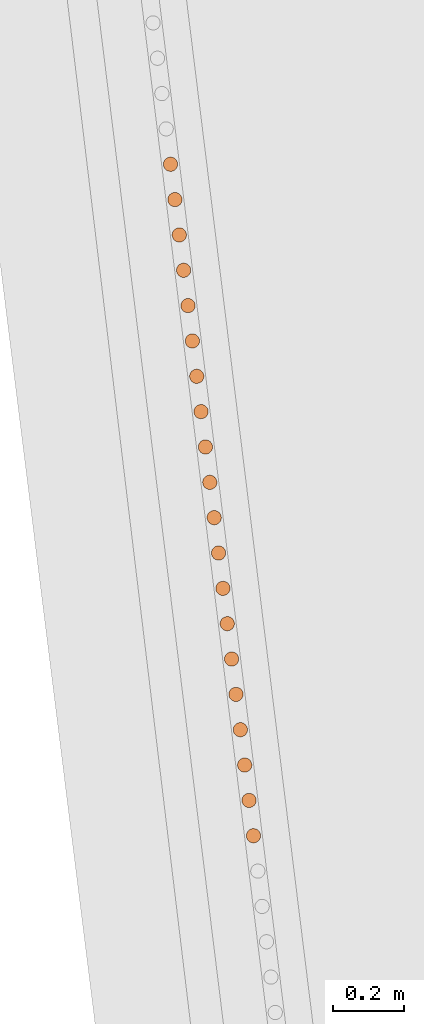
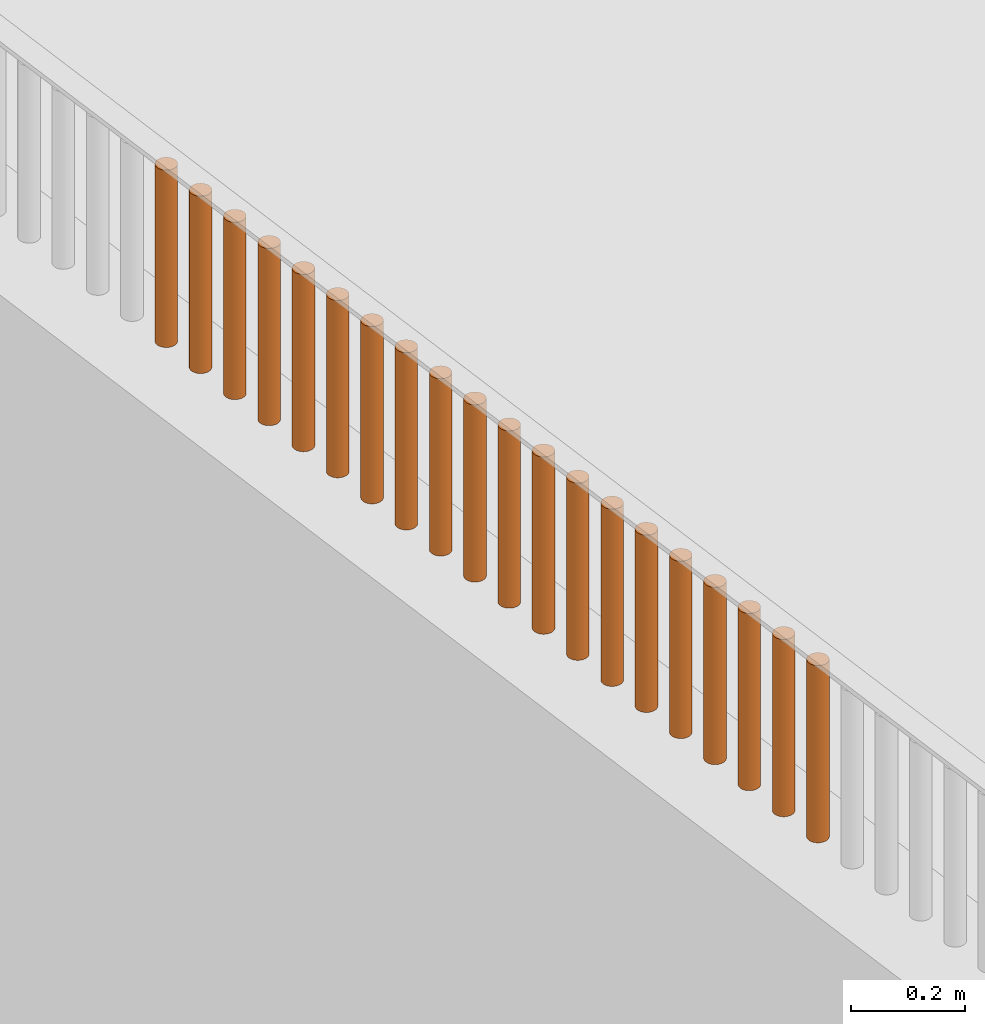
# One storey, part 234 of 1809: 20 proxies, 1 element without a shape of its own.
"""IFC2X3 building model written with IfcOpenShell, lengths in millimetres."""

from ifc_helpers import new_model, entity, si_unit, converted_unit, derived_unit, money_unit, direction, frame, origin_with_axes, place, context, subcontext, project, spatial, faceted_brep, source, transform, mapped, material, type_object, element, aggregate, save


model = new_model("IFC2X3")

# Units and contexts
model_context = context("Model", 3, precision=0.01, world=origin_with_axes(), true_north=direction((0.0, 1.0)))
body_context = subcontext(model_context, "Body", "Model", "MODEL_VIEW")
ifc_project = project(units=[si_unit("LENGTHUNIT", "METRE", prefix="MILLI"), si_unit("AREAUNIT", "SQUARE_METRE"), si_unit("VOLUMEUNIT", "CUBIC_METRE"), converted_unit("PLANEANGLEUNIT", "DEGREE", entity("IfcPlaneAngleMeasure", 0.0174532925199), si_unit("PLANEANGLEUNIT", "RADIAN"), dimensions=[0, 0, 0, 0, 0, 0, 0]), si_unit("SOLIDANGLEUNIT", "STERADIAN"), money_unit("EUR"), converted_unit("TIMEUNIT", "Year", entity("IfcTimeMeasure", 31556926.0), si_unit("TIMEUNIT", "SECOND"), dimensions=[0, 0, 1, 0, 0, 0, 0]), si_unit("MASSUNIT", "GRAM", prefix="KILO"), si_unit("THERMODYNAMICTEMPERATUREUNIT", "DEGREE_CELSIUS"), si_unit("LUMINOUSINTENSITYUNIT", "LUMEN"), si_unit("ENERGYUNIT", "JOULE", prefix="MEGA"), derived_unit("THERMALCONDUCTANCEUNIT", [(si_unit("POWERUNIT", "WATT"), 1), (si_unit("LENGTHUNIT", "METRE"), -1), (si_unit("THERMODYNAMICTEMPERATUREUNIT", "KELVIN"), -1)]), derived_unit("SPECIFICHEATCAPACITYUNIT", [(si_unit("ENERGYUNIT", "JOULE"), 1), (si_unit("MASSUNIT", "GRAM", prefix="KILO"), -1), (si_unit("THERMODYNAMICTEMPERATUREUNIT", "KELVIN"), -1)]), derived_unit("MASSDENSITYUNIT", [(si_unit("MASSUNIT", "GRAM", prefix="KILO"), 1), (si_unit("VOLUMEUNIT", "CUBIC_METRE"), -1)])], contexts=[model_context])

# Site, building, storey
site_placement = place(None, origin_with_axes())
site = spatial("IfcSite", under=ifc_project, at=site_placement, Name="Politse- ja Piirivalveameti ning Päästeameti ühishoone", CompositionType="ELEMENT")
building_placement = place(site_placement, origin_with_axes())
building = spatial("IfcBuilding", under=site, at=building_placement, Name="Politse- ja Piirivalveameti ning Päästeameti ühishoone", CompositionType="ELEMENT")
storey_placement = place(building_placement, origin_with_axes())
storey = spatial("IfcBuildingStorey", under=building, at=storey_placement, Name="Esimene korrus", CompositionType="ELEMENT", Elevation=0.0)

# Proxies
building_element_proxy_type_1 = type_object("IfcBuildingElementProxyType", Name="Railing Type", PredefinedType="NOTDEFINED")
proxy_1_placement = place(storey_placement, frame((-18956.5522504, -53688.4757966, 2100.0), z_axis=(0.0, 0.0, 1.0), x_axis=(1.0, 0.0, 0.0)))
proxy_1 = element("IfcBuildingElementProxy", 1, at=proxy_1_placement, inside=storey, type_object=building_element_proxy_type_1, Name="PIIRDEAED")
ifc_material = material(Name="ET-06_Teras - Konstruktsioon")
building_element_proxy_type_2 = type_object("IfcBuildingElementProxyType", Name="IfcBuildingElementProxy", PredefinedType="NOTDEFINED")
shared_shape_1 = source(origin_with_axes(), body_context, "Body", "Brep", [
    faceted_brep([(0.0, -20.0, 0.0), (3.47296355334, -19.6961550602, 0.0), (3.47296355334, -19.6961550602, 380.000012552), (0.0, -20.0, 380.000012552), (-3.47296355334, -19.6961550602, 0.0), (-6.84040286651, -18.7938524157, 0.0), (-10.0, -17.3205080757, 0.0), (-12.8557521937, -15.3208888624, 0.0), (-15.3208888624, -12.8557521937, 0.0), (-17.3205080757, -10.0, 0.0), (-18.7938524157, -6.84040286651, 0.0), (-19.6961550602, -3.47296355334, 0.0), (-20.0, 0.0, 0.0), (-19.6961550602, 3.47296355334, 0.0), (-18.7938524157, 6.84040286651, 0.0), (-17.3205080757, 10.0, 0.0), (-15.3208888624, 12.8557521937, 0.0), (-12.8557521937, 15.3208888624, 0.0), (-10.0, 17.3205080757, 0.0), (-6.84040286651, 18.7938524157, 0.0), (-3.47296355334, 19.6961550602, 0.0), (0.0, 20.0, 0.0), (3.47296355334, 19.6961550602, 0.0), (6.84040286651, 18.7938524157, 0.0), (10.0, 17.3205080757, 0.0), (12.8557521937, 15.3208888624, 0.0), (15.3208888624, 12.8557521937, 0.0), (17.3205080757, 10.0, 0.0), (18.7938524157, 6.84040286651, 0.0), (19.6961550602, 3.47296355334, 0.0), (20.0, 0.0, 0.0), (19.6961550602, -3.47296355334, 0.0), (18.7938524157, -6.84040286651, 0.0), (17.3205080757, -10.0, 0.0), (15.3208888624, -12.8557521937, 0.0), (12.8557521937, -15.3208888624, 0.0), (10.0, -17.3205080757, 0.0), (6.84040286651, -18.7938524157, 0.0), (6.84040286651, -18.7938524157, 380.000012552), (10.0, -17.3205080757, 380.000012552), (12.8557521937, -15.3208888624, 380.000012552), (15.3208888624, -12.8557521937, 380.000012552), (17.3205080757, -10.0, 380.000012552), (18.7938524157, -6.84040286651, 380.000012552), (19.6961550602, -3.47296355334, 380.000012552), (20.0, 0.0, 380.000012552), (19.6961550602, 3.47296355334, 380.000012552), (18.7938524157, 6.84040286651, 380.000012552), (17.3205080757, 10.0, 380.000012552), (15.3208888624, 12.8557521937, 380.000012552), (12.8557521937, 15.3208888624, 380.000012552), (10.0, 17.3205080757, 380.000012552), (6.84040286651, 18.7938524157, 380.000012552), (3.47296355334, 19.6961550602, 380.000012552), (0.0, 20.0, 380.000012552), (-3.47296355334, 19.6961550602, 380.000012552), (-6.84040286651, 18.7938524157, 380.000012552), (-10.0, 17.3205080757, 380.000012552), (-12.8557521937, 15.3208888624, 380.000012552), (-15.3208888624, 12.8557521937, 380.000012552), (-17.3205080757, 10.0, 380.000012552), (-18.7938524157, 6.84040286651, 380.000012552), (-19.6961550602, 3.47296355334, 380.000012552), (-20.0, 0.0, 380.000012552), (-19.6961550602, -3.47296355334, 380.000012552), (-18.7938524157, -6.84040286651, 380.000012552), (-17.3205080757, -10.0, 380.000012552), (-15.3208888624, -12.8557521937, 380.000012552), (-12.8557521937, -15.3208888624, 380.000012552), (-10.0, -17.3205080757, 380.000012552), (-6.84040286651, -18.7938524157, 380.000012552), (-3.47296355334, -19.6961550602, 380.000012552)], [[[0, 1, 2, 3]], [[0, 4, 5, 6, 7, 8, 9, 10, 11, 12, 13, 14, 15, 16, 17, 18, 19, 20, 21, 22, 23, 24, 25, 26, 27, 28, 29, 30, 31, 32, 33, 34, 35, 36, 37, 1]], [[1, 37, 38, 2]], [[3, 2, 38, 39, 40, 41, 42, 43, 44, 45, 46, 47, 48, 49, 50, 51, 52, 53, 54, 55, 56, 57, 58, 59, 60, 61, 62, 63, 64, 65, 66, 67, 68, 69, 70, 71]], [[4, 0, 3, 71]], [[5, 4, 71, 70]], [[6, 5, 70, 69]], [[7, 6, 69, 68]], [[8, 7, 68, 67]], [[9, 8, 67, 66]], [[10, 9, 66, 65]], [[11, 10, 65, 64]], [[12, 11, 64, 63]], [[13, 12, 63, 62]], [[14, 13, 62, 61]], [[15, 14, 61, 60]], [[16, 15, 60, 59]], [[17, 16, 59, 58]], [[18, 17, 58, 57]], [[19, 18, 57, 56]], [[20, 19, 56, 55]], [[21, 20, 55, 54]], [[22, 21, 54, 53]], [[23, 22, 53, 52]], [[24, 23, 52, 51]], [[25, 24, 51, 50]], [[26, 25, 50, 49]], [[27, 26, 49, 48]], [[28, 27, 48, 47]], [[29, 28, 47, 46]], [[30, 29, 46, 45]], [[31, 30, 45, 44]], [[32, 31, 44, 43]], [[33, 32, 43, 42]], [[34, 33, 42, 41]], [[35, 34, 41, 40]], [[36, 35, 40, 39]], [[37, 36, 39, 38]]]),
])
proxy_2_placement = place(proxy_1_placement, frame((-7747.83841342, 61935.297786, -1.25517001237e-05), z_axis=(0.0, 0.0, 1.0), x_axis=(1.0, 0.0, 0.0)))
proxy_2 = element("IfcBuildingElementProxy", 2, at=proxy_2_placement, type_object=building_element_proxy_type_2, material=ifc_material, Name="BALUSTER - 001", context=body_context, shape_type="MappedRepresentation", body=[
    mapped(shared_shape_1, transform((0.0, 0.0, 0.0), x_axis=(0.992468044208, 0.122503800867, 0.0), y_axis=(-0.122503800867, 0.992468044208, 0.0), z_axis=(0.0, 0.0, 1.0))),
])
proxy_3_placement = place(proxy_1_placement, frame((-7760.08611833, 62034.5229174, -1.25517001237e-05), z_axis=(0.0, 0.0, 1.0), x_axis=(1.0, 0.0, 0.0)))
proxy_3 = element("IfcBuildingElementProxy", 3, at=proxy_3_placement, type_object=building_element_proxy_type_2, material=ifc_material, Name="BALUSTER - 001", context=body_context, shape_type="MappedRepresentation", body=[
    mapped(shared_shape_1, transform((0.0, 0.0, 0.0), x_axis=(0.992468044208, 0.122503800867, 0.0), y_axis=(-0.122503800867, 0.992468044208, 0.0), z_axis=(0.0, 0.0, 1.0))),
])
proxy_4_placement = place(proxy_1_placement, frame((-7784.58152816, 62232.9731803, -1.25517001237e-05), z_axis=(0.0, 0.0, 1.0), x_axis=(1.0, 0.0, 0.0)))
proxy_4 = element("IfcBuildingElementProxy", 4, at=proxy_4_placement, type_object=building_element_proxy_type_2, material=ifc_material, Name="BALUSTER - 001", context=body_context, shape_type="MappedRepresentation", body=[
    mapped(shared_shape_1, transform((0.0, 0.0, 0.0), x_axis=(0.992468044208, 0.122503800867, 0.0), y_axis=(-0.122503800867, 0.992468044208, 0.0), z_axis=(0.0, 0.0, 1.0))),
])
proxy_5_placement = place(proxy_1_placement, frame((-7845.82005272, 62729.0988374, -1.25517001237e-05), z_axis=(0.0, 0.0, 1.0), x_axis=(1.0, 0.0, 0.0)))
proxy_5 = element("IfcBuildingElementProxy", 5, at=proxy_5_placement, type_object=building_element_proxy_type_2, material=ifc_material, Name="BALUSTER - 001", context=body_context, shape_type="MappedRepresentation", body=[
    mapped(shared_shape_1, transform((0.0, 0.0, 0.0), x_axis=(0.992468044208, 0.122503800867, 0.0), y_axis=(-0.122503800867, 0.992468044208, 0.0), z_axis=(0.0, 0.0, 1.0))),
])
proxy_6_placement = place(proxy_1_placement, frame((-7870.31546255, 62927.5491002, -1.25517001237e-05), z_axis=(0.0, 0.0, 1.0), x_axis=(1.0, 0.0, 0.0)))
proxy_6 = element("IfcBuildingElementProxy", 6, at=proxy_6_placement, type_object=building_element_proxy_type_2, material=ifc_material, Name="BALUSTER - 001", context=body_context, shape_type="MappedRepresentation", body=[
    mapped(shared_shape_1, transform((0.0, 0.0, 0.0), x_axis=(0.992468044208, 0.122503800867, 0.0), y_axis=(-0.122503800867, 0.992468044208, 0.0), z_axis=(0.0, 0.0, 1.0))),
])
proxy_7_placement = place(proxy_1_placement, frame((-7894.81087237, 63125.9993631, -1.25517001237e-05), z_axis=(0.0, 0.0, 1.0), x_axis=(1.0, 0.0, 0.0)))
proxy_7 = element("IfcBuildingElementProxy", 7, at=proxy_7_placement, type_object=building_element_proxy_type_2, material=ifc_material, Name="BALUSTER - 001", context=body_context, shape_type="MappedRepresentation", body=[
    mapped(shared_shape_1, transform((0.0, 0.0, 0.0), x_axis=(0.992468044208, 0.122503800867, 0.0), y_axis=(-0.122503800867, 0.992468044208, 0.0), z_axis=(0.0, 0.0, 1.0))),
])
proxy_8_placement = place(proxy_1_placement, frame((-7907.05857729, 63225.2244945, -1.25517001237e-05), z_axis=(0.0, 0.0, 1.0), x_axis=(1.0, 0.0, 0.0)))
proxy_8 = element("IfcBuildingElementProxy", 8, at=proxy_8_placement, type_object=building_element_proxy_type_2, material=ifc_material, Name="BALUSTER - 001", context=body_context, shape_type="MappedRepresentation", body=[
    mapped(shared_shape_1, transform((0.0, 0.0, 0.0), x_axis=(0.992468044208, 0.122503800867, 0.0), y_axis=(-0.122503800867, 0.992468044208, 0.0), z_axis=(0.0, 0.0, 1.0))),
])
proxy_9_placement = place(proxy_1_placement, frame((-7919.3062822, 63324.4496259, -1.25517001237e-05), z_axis=(0.0, 0.0, 1.0), x_axis=(1.0, 0.0, 0.0)))
proxy_9 = element("IfcBuildingElementProxy", 9, at=proxy_9_placement, type_object=building_element_proxy_type_2, material=ifc_material, Name="BALUSTER - 001", context=body_context, shape_type="MappedRepresentation", body=[
    mapped(shared_shape_1, transform((0.0, 0.0, 0.0), x_axis=(0.992468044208, 0.122503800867, 0.0), y_axis=(-0.122503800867, 0.992468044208, 0.0), z_axis=(0.0, 0.0, 1.0))),
])
proxy_10_placement = place(proxy_1_placement, frame((-7943.80169203, 63522.8998888, -1.25517001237e-05), z_axis=(0.0, 0.0, 1.0), x_axis=(1.0, 0.0, 0.0)))
proxy_10 = element("IfcBuildingElementProxy", 10, at=proxy_10_placement, type_object=building_element_proxy_type_2, material=ifc_material, Name="BALUSTER - 001", context=body_context, shape_type="MappedRepresentation", body=[
    mapped(shared_shape_1, transform((0.0, 0.0, 0.0), x_axis=(0.992468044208, 0.122503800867, 0.0), y_axis=(-0.122503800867, 0.992468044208, 0.0), z_axis=(0.0, 0.0, 1.0))),
])
proxy_11_placement = place(proxy_1_placement, frame((-7968.29710185, 63721.3501516, -1.25517001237e-05), z_axis=(0.0, 0.0, 1.0), x_axis=(1.0, 0.0, 0.0)))
proxy_11 = element("IfcBuildingElementProxy", 11, at=proxy_11_placement, type_object=building_element_proxy_type_2, material=ifc_material, Name="BALUSTER - 001", context=body_context, shape_type="MappedRepresentation", body=[
    mapped(shared_shape_1, transform((0.0, 0.0, 0.0), x_axis=(0.992468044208, 0.122503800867, 0.0), y_axis=(-0.122503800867, 0.992468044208, 0.0), z_axis=(0.0, 0.0, 1.0))),
])
proxy_12_placement = place(proxy_1_placement, frame((-7980.54480677, 63820.5752831, -1.25517001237e-05), z_axis=(0.0, 0.0, 1.0), x_axis=(1.0, 0.0, 0.0)))
proxy_12 = element("IfcBuildingElementProxy", 12, at=proxy_12_placement, type_object=building_element_proxy_type_2, material=ifc_material, Name="BALUSTER - 001", context=body_context, shape_type="MappedRepresentation", body=[
    mapped(shared_shape_1, transform((0.0, 0.0, 0.0), x_axis=(0.992468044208, 0.122503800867, 0.0), y_axis=(-0.122503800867, 0.992468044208, 0.0), z_axis=(0.0, 0.0, 1.0))),
])
shared_shape_2 = source(origin_with_axes(), body_context, "Body", "Brep", [
    faceted_brep([(0.0, -20.0, 0.0), (3.47296355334, -19.6961550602, 0.0), (3.47296355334, -19.6961550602, 380.000012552), (0.0, -20.0, 380.000012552), (-3.47296355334, -19.6961550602, 0.0), (-6.84040286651, -18.7938524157, 0.0), (-10.0, -17.3205080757, 0.0), (-12.8557521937, -15.3208888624, 0.0), (-15.3208888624, -12.8557521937, 0.0), (-17.3205080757, -10.0, 0.0), (-18.7938524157, -6.84040286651, 0.0), (-19.6961550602, -3.47296355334, 0.0), (-20.0, 0.0, 0.0), (-19.6961550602, 3.47296355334, 0.0), (-18.7938524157, 6.84040286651, 0.0), (-17.3205080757, 10.0, 0.0), (-15.3208888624, 12.8557521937, 0.0), (-12.8557521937, 15.3208888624, 0.0), (-10.0, 17.3205080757, 0.0), (-6.84040286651, 18.7938524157, 0.0), (-3.47296355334, 19.6961550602, 0.0), (0.0, 20.0, 0.0), (3.47296355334, 19.6961550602, 0.0), (6.84040286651, 18.7938524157, 0.0), (10.0, 17.3205080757, 0.0), (12.8557521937, 15.3208888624, 0.0), (15.3208888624, 12.8557521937, 0.0), (17.3205080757, 10.0, 0.0), (18.7938524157, 6.84040286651, 0.0), (19.6961550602, 3.47296355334, 0.0), (20.0, 0.0, 0.0), (19.6961550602, -3.47296355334, 0.0), (18.7938524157, -6.84040286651, 0.0), (17.3205080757, -10.0, 0.0), (15.3208888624, -12.8557521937, 0.0), (12.8557521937, -15.3208888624, 0.0), (10.0, -17.3205080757, 0.0), (6.84040286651, -18.7938524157, 0.0), (6.84040286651, -18.7938524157, 380.000012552), (10.0, -17.3205080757, 380.000012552), (12.8557521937, -15.3208888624, 380.000012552), (15.3208888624, -12.8557521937, 380.000012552), (17.3205080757, -10.0, 380.000012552), (18.7938524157, -6.84040286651, 380.000012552), (19.6961550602, -3.47296355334, 380.000012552), (20.0, 0.0, 380.000012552), (19.6961550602, 3.47296355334, 380.000012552), (18.7938524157, 6.84040286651, 380.000012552), (17.3205080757, 10.0, 380.000012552), (15.3208888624, 12.8557521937, 380.000012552), (12.8557521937, 15.3208888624, 380.000012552), (10.0, 17.3205080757, 380.000012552), (6.84040286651, 18.7938524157, 380.000012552), (3.47296355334, 19.6961550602, 380.000012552), (0.0, 20.0, 380.000012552), (-3.47296355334, 19.6961550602, 380.000012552), (-6.84040286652, 18.7938524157, 380.000012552), (-10.0, 17.3205080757, 380.000012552), (-12.8557521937, 15.3208888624, 380.000012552), (-15.3208888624, 12.8557521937, 380.000012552), (-17.3205080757, 10.0, 380.000012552), (-18.7938524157, 6.84040286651, 380.000012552), (-19.6961550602, 3.47296355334, 380.000012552), (-20.0, 0.0, 380.000012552), (-19.6961550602, -3.47296355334, 380.000012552), (-18.7938524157, -6.84040286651, 380.000012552), (-17.3205080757, -10.0, 380.000012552), (-15.3208888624, -12.8557521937, 380.000012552), (-12.8557521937, -15.3208888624, 380.000012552), (-10.0, -17.3205080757, 380.000012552), (-6.84040286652, -18.7938524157, 380.000012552), (-3.47296355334, -19.6961550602, 380.000012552)], [[[0, 1, 2, 3]], [[0, 4, 5, 6, 7, 8, 9, 10, 11, 12, 13, 14, 15, 16, 17, 18, 19, 20, 21, 22, 23, 24, 25, 26, 27, 28, 29, 30, 31, 32, 33, 34, 35, 36, 37, 1]], [[1, 37, 38, 2]], [[3, 2, 38, 39, 40, 41, 42, 43, 44, 45, 46, 47, 48, 49, 50, 51, 52, 53, 54, 55, 56, 57, 58, 59, 60, 61, 62, 63, 64, 65, 66, 67, 68, 69, 70, 71]], [[4, 0, 3, 71]], [[5, 4, 71, 70]], [[6, 5, 70, 69]], [[7, 6, 69, 68]], [[8, 7, 68, 67]], [[9, 8, 67, 66]], [[10, 9, 66, 65]], [[11, 10, 65, 64]], [[12, 11, 64, 63]], [[13, 12, 63, 62]], [[14, 13, 62, 61]], [[15, 14, 61, 60]], [[16, 15, 60, 59]], [[17, 16, 59, 58]], [[18, 17, 58, 57]], [[19, 18, 57, 56]], [[20, 19, 56, 55]], [[21, 20, 55, 54]], [[22, 21, 54, 53]], [[23, 22, 53, 52]], [[24, 23, 52, 51]], [[25, 24, 51, 50]], [[26, 25, 50, 49]], [[27, 26, 49, 48]], [[28, 27, 48, 47]], [[29, 28, 47, 46]], [[30, 29, 46, 45]], [[31, 30, 45, 44]], [[32, 31, 44, 43]], [[33, 32, 43, 42]], [[34, 33, 42, 41]], [[35, 34, 41, 40]], [[36, 35, 40, 39]], [[37, 36, 39, 38]]]),
])
proxy_13_placement = place(proxy_1_placement, frame((-7772.33382324, 62133.7480488, -1.25517001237e-05), z_axis=(0.0, 0.0, 1.0), x_axis=(1.0, 0.0, 0.0)))
proxy_13 = element("IfcBuildingElementProxy", 13, at=proxy_13_placement, type_object=building_element_proxy_type_2, material=ifc_material, Name="BALUSTER - 001", context=body_context, shape_type="MappedRepresentation", body=[
    mapped(shared_shape_2, transform((0.0, 0.0, 0.0), x_axis=(0.992468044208, 0.122503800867, 0.0), y_axis=(-0.122503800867, 0.992468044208, 0.0), z_axis=(0.0, 0.0, 1.0))),
])
proxy_14_placement = place(proxy_1_placement, frame((-7833.57234781, 62629.873706, -1.25517001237e-05), z_axis=(0.0, 0.0, 1.0), x_axis=(1.0, 0.0, 0.0)))
proxy_14 = element("IfcBuildingElementProxy", 14, at=proxy_14_placement, type_object=building_element_proxy_type_2, material=ifc_material, Name="BALUSTER - 001", context=body_context, shape_type="MappedRepresentation", body=[
    mapped(shared_shape_2, transform((0.0, 0.0, 0.0), x_axis=(0.992468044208, 0.122503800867, 0.0), y_axis=(-0.122503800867, 0.992468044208, 0.0), z_axis=(0.0, 0.0, 1.0))),
])
proxy_15_placement = place(proxy_1_placement, frame((-7858.06775763, 62828.3239688, -1.25517001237e-05), z_axis=(0.0, 0.0, 1.0), x_axis=(1.0, 0.0, 0.0)))
proxy_15 = element("IfcBuildingElementProxy", 15, at=proxy_15_placement, type_object=building_element_proxy_type_2, material=ifc_material, Name="BALUSTER - 001", context=body_context, shape_type="MappedRepresentation", body=[
    mapped(shared_shape_2, transform((0.0, 0.0, 0.0), x_axis=(0.992468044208, 0.122503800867, 0.0), y_axis=(-0.122503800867, 0.992468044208, 0.0), z_axis=(0.0, 0.0, 1.0))),
])
proxy_16_placement = place(proxy_1_placement, frame((-7882.56316746, 63026.7742317, -1.25517001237e-05), z_axis=(0.0, 0.0, 1.0), x_axis=(1.0, 0.0, 0.0)))
proxy_16 = element("IfcBuildingElementProxy", 16, at=proxy_16_placement, type_object=building_element_proxy_type_2, material=ifc_material, Name="BALUSTER - 001", context=body_context, shape_type="MappedRepresentation", body=[
    mapped(shared_shape_2, transform((0.0, 0.0, 0.0), x_axis=(0.992468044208, 0.122503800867, 0.0), y_axis=(-0.122503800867, 0.992468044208, 0.0), z_axis=(0.0, 0.0, 1.0))),
])
shared_shape_3 = source(origin_with_axes(), body_context, "Body", "Brep", [
    faceted_brep([(0.0, -20.0, 0.0), (3.47296355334, -19.6961550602, 0.0), (3.47296355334, -19.6961550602, 380.000012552), (0.0, -20.0, 380.000012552), (-3.47296355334, -19.6961550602, 0.0), (-6.84040286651, -18.7938524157, 0.0), (-10.0, -17.3205080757, 0.0), (-12.8557521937, -15.3208888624, 0.0), (-15.3208888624, -12.8557521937, 0.0), (-17.3205080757, -10.0, 0.0), (-18.7938524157, -6.84040286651, 0.0), (-19.6961550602, -3.47296355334, 0.0), (-20.0, 0.0, 0.0), (-19.6961550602, 3.47296355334, 0.0), (-18.7938524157, 6.84040286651, 0.0), (-17.3205080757, 10.0, 0.0), (-15.3208888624, 12.8557521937, 0.0), (-12.8557521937, 15.3208888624, 0.0), (-10.0, 17.3205080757, 0.0), (-6.84040286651, 18.7938524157, 0.0), (-3.47296355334, 19.6961550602, 0.0), (0.0, 20.0, 0.0), (3.47296355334, 19.6961550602, 0.0), (6.84040286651, 18.7938524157, 0.0), (10.0, 17.3205080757, 0.0), (12.8557521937, 15.3208888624, 0.0), (15.3208888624, 12.8557521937, 0.0), (17.3205080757, 10.0, 0.0), (18.7938524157, 6.84040286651, 0.0), (19.6961550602, 3.47296355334, 0.0), (20.0, 0.0, 0.0), (19.6961550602, -3.47296355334, 0.0), (18.7938524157, -6.84040286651, 0.0), (17.3205080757, -10.0, 0.0), (15.3208888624, -12.8557521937, 0.0), (12.8557521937, -15.3208888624, 0.0), (10.0, -17.3205080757, 0.0), (6.84040286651, -18.7938524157, 0.0), (6.84040286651, -18.7938524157, 380.000012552), (10.0, -17.3205080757, 380.000012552), (12.8557521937, -15.3208888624, 380.000012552), (15.3208888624, -12.8557521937, 380.000012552), (17.3205080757, -10.0, 380.000012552), (18.7938524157, -6.84040286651, 380.000012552), (19.6961550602, -3.47296355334, 380.000012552), (20.0, 0.0, 380.000012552), (19.6961550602, 3.47296355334, 380.000012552), (18.7938524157, 6.84040286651, 380.000012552), (17.3205080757, 10.0, 380.000012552), (15.3208888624, 12.8557521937, 380.000012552), (12.8557521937, 15.3208888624, 380.000012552), (10.0, 17.3205080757, 380.000012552), (6.84040286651, 18.7938524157, 380.000012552), (3.47296355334, 19.6961550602, 380.000012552), (0.0, 20.0, 380.000012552), (-3.47296355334, 19.6961550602, 380.000012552), (-6.84040286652, 18.7938524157, 380.000012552), (-10.0, 17.3205080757, 380.000012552), (-12.8557521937, 15.3208888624, 380.000012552), (-15.3208888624, 12.8557521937, 380.000012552), (-17.3205080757, 10.0, 380.000012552), (-18.7938524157, 6.84040286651, 380.000012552), (-19.6961550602, 3.47296355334, 380.000012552), (-20.0, 0.0, 380.000012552), (-19.6961550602, -3.47296355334, 380.000012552), (-18.7938524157, -6.84040286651, 380.000012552), (-17.3205080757, -10.0, 380.000012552), (-15.3208888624, -12.8557521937, 380.000012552), (-12.8557521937, -15.3208888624, 380.000012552), (-10.0, -17.3205080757, 380.000012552), (-6.84040286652, -18.7938524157, 380.000012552), (-3.47296355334, -19.6961550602, 380.000012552)], [[[0, 1, 2, 3]], [[0, 4, 5, 6, 7, 8, 9, 10, 11, 12, 13, 14, 15, 16, 17, 18, 19, 20, 21, 22, 23, 24, 25, 26, 27, 28, 29, 30, 31, 32, 33, 34, 35, 36, 37, 1]], [[1, 37, 38, 2]], [[3, 2, 38, 39, 40, 41, 42, 43, 44, 45, 46, 47, 48, 49, 50, 51, 52, 53, 54, 55, 56, 57, 58, 59, 60, 61, 62, 63, 64, 65, 66, 67, 68, 69, 70, 71]], [[4, 0, 3, 71]], [[5, 4, 71, 70]], [[6, 5, 70, 69]], [[7, 6, 69, 68]], [[8, 7, 68, 67]], [[9, 8, 67, 66]], [[10, 9, 66, 65]], [[11, 10, 65, 64]], [[12, 11, 64, 63]], [[13, 12, 63, 62]], [[14, 13, 62, 61]], [[15, 14, 61, 60]], [[16, 15, 60, 59]], [[17, 16, 59, 58]], [[18, 17, 58, 57]], [[19, 18, 57, 56]], [[20, 19, 56, 55]], [[21, 20, 55, 54]], [[22, 21, 54, 53]], [[23, 22, 53, 52]], [[24, 23, 52, 51]], [[25, 24, 51, 50]], [[26, 25, 50, 49]], [[27, 26, 49, 48]], [[28, 27, 48, 47]], [[29, 28, 47, 46]], [[30, 29, 46, 45]], [[31, 30, 45, 44]], [[32, 31, 44, 43]], [[33, 32, 43, 42]], [[34, 33, 42, 41]], [[35, 34, 41, 40]], [[36, 35, 40, 39]], [[37, 36, 39, 38]]]),
])
proxy_17_placement = place(proxy_1_placement, frame((-7796.82923307, 62332.1983117, -1.25517001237e-05), z_axis=(0.0, 0.0, 1.0), x_axis=(1.0, 0.0, 0.0)))
proxy_17 = element("IfcBuildingElementProxy", 17, at=proxy_17_placement, type_object=building_element_proxy_type_2, material=ifc_material, Name="BALUSTER - 001", context=body_context, shape_type="MappedRepresentation", body=[
    mapped(shared_shape_3, transform((0.0, 0.0, 0.0), x_axis=(0.992468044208, 0.122503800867, 0.0), y_axis=(-0.122503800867, 0.992468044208, 0.0), z_axis=(0.0, 0.0, 1.0))),
])
proxy_18_placement = place(proxy_1_placement, frame((-7821.3246429, 62530.6485745, -1.25517001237e-05), z_axis=(0.0, 0.0, 1.0), x_axis=(1.0, 0.0, 0.0)))
proxy_18 = element("IfcBuildingElementProxy", 18, at=proxy_18_placement, type_object=building_element_proxy_type_2, material=ifc_material, Name="BALUSTER - 001", context=body_context, shape_type="MappedRepresentation", body=[
    mapped(shared_shape_3, transform((0.0, 0.0, 0.0), x_axis=(0.992468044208, 0.122503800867, 0.0), y_axis=(-0.122503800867, 0.992468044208, 0.0), z_axis=(0.0, 0.0, 1.0))),
])
proxy_19_placement = place(proxy_1_placement, frame((-7931.55398711, 63423.6747574, -1.25517001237e-05), z_axis=(0.0, 0.0, 1.0), x_axis=(1.0, 0.0, 0.0)))
proxy_19 = element("IfcBuildingElementProxy", 19, at=proxy_19_placement, type_object=building_element_proxy_type_2, material=ifc_material, Name="BALUSTER - 001", context=body_context, shape_type="MappedRepresentation", body=[
    mapped(shared_shape_3, transform((0.0, 0.0, 0.0), x_axis=(0.992468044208, 0.122503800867, 0.0), y_axis=(-0.122503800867, 0.992468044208, 0.0), z_axis=(0.0, 0.0, 1.0))),
])
proxy_20_placement = place(proxy_1_placement, frame((-7956.04939694, 63622.1250202, -1.25517001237e-05), z_axis=(0.0, 0.0, 1.0), x_axis=(1.0, 0.0, 0.0)))
proxy_20 = element("IfcBuildingElementProxy", 20, at=proxy_20_placement, type_object=building_element_proxy_type_2, material=ifc_material, Name="BALUSTER - 001", context=body_context, shape_type="MappedRepresentation", body=[
    mapped(shared_shape_3, transform((0.0, 0.0, 0.0), x_axis=(0.992468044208, 0.122503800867, 0.0), y_axis=(-0.122503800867, 0.992468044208, 0.0), z_axis=(0.0, 0.0, 1.0))),
])
shared_shape_4 = source(origin_with_axes(), body_context, "Body", "Brep", [
    faceted_brep([(0.0, -20.0, 0.0), (3.47296355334, -19.6961550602, 0.0), (3.47296355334, -19.6961550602, 380.000012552), (0.0, -20.0, 380.000012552), (-3.47296355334, -19.6961550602, 0.0), (-6.84040286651, -18.7938524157, 0.0), (-10.0, -17.3205080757, 0.0), (-12.8557521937, -15.3208888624, 0.0), (-15.3208888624, -12.8557521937, 0.0), (-17.3205080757, -10.0, 0.0), (-18.7938524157, -6.84040286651, 0.0), (-19.6961550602, -3.47296355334, 0.0), (-20.0, 0.0, 0.0), (-19.6961550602, 3.47296355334, 0.0), (-18.7938524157, 6.84040286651, 0.0), (-17.3205080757, 10.0, 0.0), (-15.3208888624, 12.8557521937, 0.0), (-12.8557521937, 15.3208888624, 0.0), (-10.0, 17.3205080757, 0.0), (-6.84040286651, 18.7938524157, 0.0), (-3.47296355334, 19.6961550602, 0.0), (0.0, 20.0, 0.0), (3.47296355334, 19.6961550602, 0.0), (6.84040286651, 18.7938524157, 0.0), (10.0, 17.3205080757, 0.0), (12.8557521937, 15.3208888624, 0.0), (15.3208888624, 12.8557521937, 0.0), (17.3205080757, 10.0, 0.0), (18.7938524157, 6.84040286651, 0.0), (19.6961550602, 3.47296355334, 0.0), (20.0, 0.0, 0.0), (19.6961550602, -3.47296355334, 0.0), (18.7938524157, -6.84040286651, 0.0), (17.3205080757, -10.0, 0.0), (15.3208888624, -12.8557521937, 0.0), (12.8557521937, -15.3208888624, 0.0), (10.0, -17.3205080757, 0.0), (6.84040286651, -18.7938524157, 0.0), (6.84040286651, -18.7938524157, 380.000012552), (10.0, -17.3205080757, 380.000012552), (12.8557521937, -15.3208888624, 380.000012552), (15.3208888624, -12.8557521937, 380.000012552), (17.3205080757, -10.0, 380.000012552), (18.7938524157, -6.84040286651, 380.000012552), (19.6961550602, -3.47296355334, 380.000012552), (20.0, 0.0, 380.000012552), (19.6961550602, 3.47296355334, 380.000012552), (18.7938524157, 6.84040286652, 380.000012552), (17.3205080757, 10.0, 380.000012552), (15.3208888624, 12.8557521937, 380.000012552), (12.8557521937, 15.3208888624, 380.000012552), (10.0, 17.3205080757, 380.000012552), (6.84040286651, 18.7938524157, 380.000012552), (3.47296355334, 19.6961550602, 380.000012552), (0.0, 20.0, 380.000012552), (-3.47296355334, 19.6961550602, 380.000012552), (-6.84040286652, 18.7938524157, 380.000012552), (-10.0, 17.3205080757, 380.000012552), (-12.8557521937, 15.3208888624, 380.000012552), (-15.3208888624, 12.8557521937, 380.000012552), (-17.3205080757, 10.0, 380.000012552), (-18.7938524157, 6.84040286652, 380.000012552), (-19.6961550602, 3.47296355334, 380.000012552), (-20.0, 0.0, 380.000012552), (-19.6961550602, -3.47296355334, 380.000012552), (-18.7938524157, -6.84040286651, 380.000012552), (-17.3205080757, -10.0, 380.000012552), (-15.3208888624, -12.8557521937, 380.000012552), (-12.8557521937, -15.3208888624, 380.000012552), (-10.0, -17.3205080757, 380.000012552), (-6.84040286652, -18.7938524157, 380.000012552), (-3.47296355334, -19.6961550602, 380.000012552)], [[[0, 1, 2, 3]], [[0, 4, 5, 6, 7, 8, 9, 10, 11, 12, 13, 14, 15, 16, 17, 18, 19, 20, 21, 22, 23, 24, 25, 26, 27, 28, 29, 30, 31, 32, 33, 34, 35, 36, 37, 1]], [[1, 37, 38, 2]], [[3, 2, 38, 39, 40, 41, 42, 43, 44, 45, 46, 47, 48, 49, 50, 51, 52, 53, 54, 55, 56, 57, 58, 59, 60, 61, 62, 63, 64, 65, 66, 67, 68, 69, 70, 71]], [[4, 0, 3, 71]], [[5, 4, 71, 70]], [[6, 5, 70, 69]], [[7, 6, 69, 68]], [[8, 7, 68, 67]], [[9, 8, 67, 66]], [[10, 9, 66, 65]], [[11, 10, 65, 64]], [[12, 11, 64, 63]], [[13, 12, 63, 62]], [[14, 13, 62, 61]], [[15, 14, 61, 60]], [[16, 15, 60, 59]], [[17, 16, 59, 58]], [[18, 17, 58, 57]], [[19, 18, 57, 56]], [[20, 19, 56, 55]], [[21, 20, 55, 54]], [[22, 21, 54, 53]], [[23, 22, 53, 52]], [[24, 23, 52, 51]], [[25, 24, 51, 50]], [[26, 25, 50, 49]], [[27, 26, 49, 48]], [[28, 27, 48, 47]], [[29, 28, 47, 46]], [[30, 29, 46, 45]], [[31, 30, 45, 44]], [[32, 31, 44, 43]], [[33, 32, 43, 42]], [[34, 33, 42, 41]], [[35, 34, 41, 40]], [[36, 35, 40, 39]], [[37, 36, 39, 38]]]),
])
proxy_21_placement = place(proxy_1_placement, frame((-7809.07693798, 62431.4234431, -1.25517001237e-05), z_axis=(0.0, 0.0, 1.0), x_axis=(1.0, 0.0, 0.0)))
proxy_21 = element("IfcBuildingElementProxy", 21, at=proxy_21_placement, type_object=building_element_proxy_type_2, material=ifc_material, Name="BALUSTER - 001", context=body_context, shape_type="MappedRepresentation", body=[
    mapped(shared_shape_4, transform((0.0, 0.0, 0.0), x_axis=(0.992468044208, 0.122503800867, 0.0), y_axis=(-0.122503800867, 0.992468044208, 0.0), z_axis=(0.0, 0.0, 1.0))),
])
aggregate(proxy_1, [proxy_2, proxy_3, proxy_13, proxy_4, proxy_17, proxy_21, proxy_18, proxy_14, proxy_5, proxy_15, proxy_6, proxy_16, proxy_7, proxy_8, proxy_9, proxy_19, proxy_10, proxy_20, proxy_11, proxy_12])

save(model, "model.ifc")
